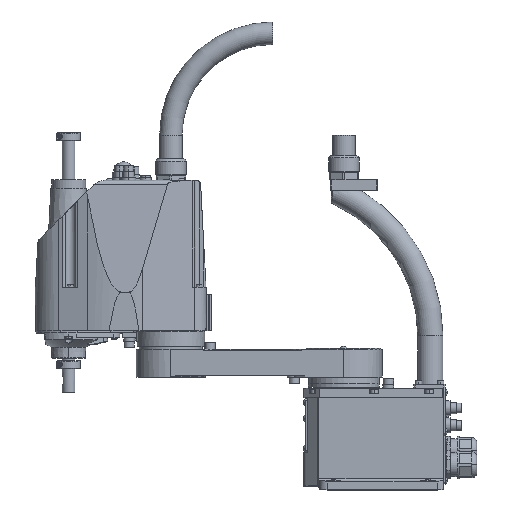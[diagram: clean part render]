
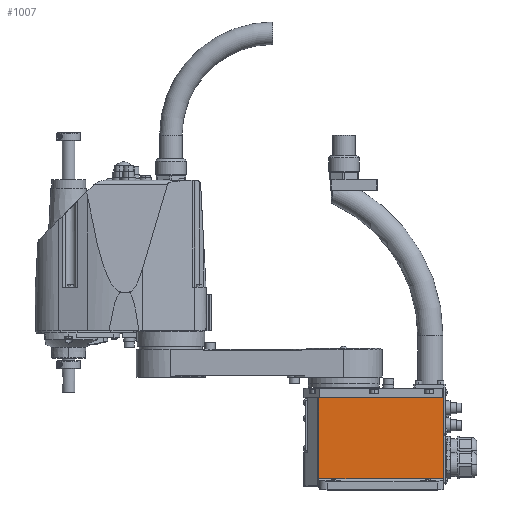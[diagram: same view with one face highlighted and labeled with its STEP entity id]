
A CAD part, top view. The second image highlights one B-rep face of the part: STEP entity #1007.
In plain terms, the highlighted planar face has unit normal (0, 0, 1).
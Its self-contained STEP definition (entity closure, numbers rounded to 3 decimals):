
#1007 = ADVANCED_FACE( '', ( #3838 ), #3839, .T. );
#3838 = FACE_OUTER_BOUND( '', #7948, .T. );
#3839 = PLANE( '', #7949 );
#7948 = EDGE_LOOP( '', ( #16636, #16637, #16638, #16639 ) );
#7949 = AXIS2_PLACEMENT_3D( '', #16640, #16641, #16642 );
#16636 = ORIENTED_EDGE( '', *, *, #27338, .T. );
#16637 = ORIENTED_EDGE( '', *, *, #27210, .T. );
#16638 = ORIENTED_EDGE( '', *, *, #27381, .T. );
#16639 = ORIENTED_EDGE( '', *, *, #27068, .F. );
#16640 = CARTESIAN_POINT( '', ( -51.5, 14., 50.5 ) );
#16641 = DIRECTION( '', ( 0., 0., 1. ) );
#16642 = DIRECTION( '', ( 0., -1., 0. ) );
#27068 = EDGE_CURVE( '', #32845, #32847, #32848, .T. );
#27210 = EDGE_CURVE( '', #33073, #33071, #33074, .T. );
#27338 = EDGE_CURVE( '', #32845, #33073, #33272, .T. );
#27381 = EDGE_CURVE( '', #33071, #32847, #33336, .T. );
#32845 = VERTEX_POINT( '', #41821 );
#32847 = VERTEX_POINT( '', #41823 );
#32848 = LINE( '', #41824, #41825 );
#33071 = VERTEX_POINT( '', #42278 );
#33073 = VERTEX_POINT( '', #42280 );
#33074 = LINE( '', #42281, #42282 );
#33272 = LINE( '', #42667, #42668 );
#33336 = LINE( '', #42789, #42790 );
#41821 = CARTESIAN_POINT( '', ( -31.897, 117., 50.5 ) );
#41823 = CARTESIAN_POINT( '', ( 127., 117., 50.5 ) );
#41824 = CARTESIAN_POINT( '', ( -51.5, 117., 50.5 ) );
#41825 = VECTOR( '', #53539, 1. );
#42278 = CARTESIAN_POINT( '', ( 127., 14., 50.5 ) );
#42280 = CARTESIAN_POINT( '', ( -31.897, 14., 50.5 ) );
#42281 = CARTESIAN_POINT( '', ( -51.5, 14., 50.5 ) );
#42282 = VECTOR( '', #53750, 1. );
#42667 = CARTESIAN_POINT( '', ( -31.897, 65.5, 50.5 ) );
#42668 = VECTOR( '', #53953, 1. );
#42789 = CARTESIAN_POINT( '', ( 127., 117., 50.5 ) );
#42790 = VECTOR( '', #54012, 1. );
#53539 = DIRECTION( '', ( 1., 0., 0. ) );
#53750 = DIRECTION( '', ( 1., 0., 0. ) );
#53953 = DIRECTION( '', ( 0., -1., 0. ) );
#54012 = DIRECTION( '', ( 0., 1., 0. ) );
